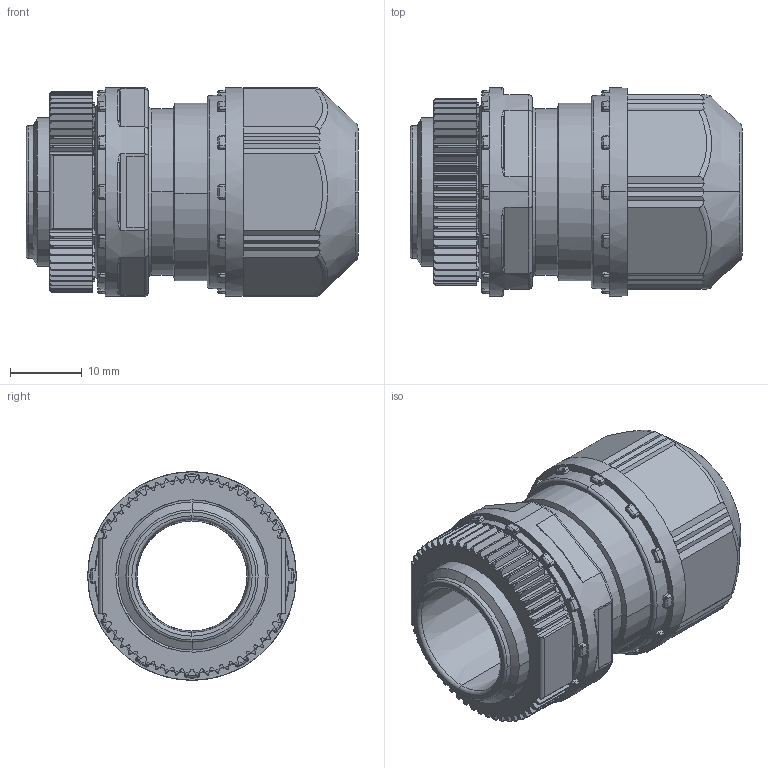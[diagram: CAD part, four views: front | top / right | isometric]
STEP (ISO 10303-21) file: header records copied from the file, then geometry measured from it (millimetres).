
FILE_DESCRIPTION(('Creo Elements/Direct Modeling STEP Export'),'2;1');
FILE_NAME('H17-0007-CL901-01_OA-WW16-08／15.stp','2022-09-15T13:40:47',(''),(''),'Creo Elements/Direct Modeling STEP processor for AP214 (Solid Model)','Creo Elements/Direct Modeling 20.3A 20-Jun-2020 (C) Parametric Technology GmbH','');
FILE_SCHEMA(('AUTOMOTIVE_DESIGN { 1 0 10303 214 1 1 1 1 }'));
Length unit declared in the file: millimetre
Products named in the file (3): Locknut; Nipple; OA-WW16-08-15
Assembly tree (2 placements, depth 2):
  OA-WW16-08-15
    Nipple
    Locknut
Bounding box: 46.2 x 29 x 29 mm (x, y, z)
Volume: 15740.5 mm3; surface area: 9405.7 mm2
Topology: 2 solids, 2 shells, 1100 faces, 2973 edges, 1836 vertices
Faces by surface type: plane 363, cylinder 309, bspline 230, torus 98, cone 50, sphere 50
Entity records: 52720 total; most frequent: CARTESIAN_POINT 28585, ORIENTED_EDGE 5846, DIRECTION 3746, EDGE_CURVE 2923, VERTEX_POINT 1836, AXIS2_PLACEMENT_3D 1337, EDGE_LOOP 1113, FACE_OUTER_BOUND 1100
